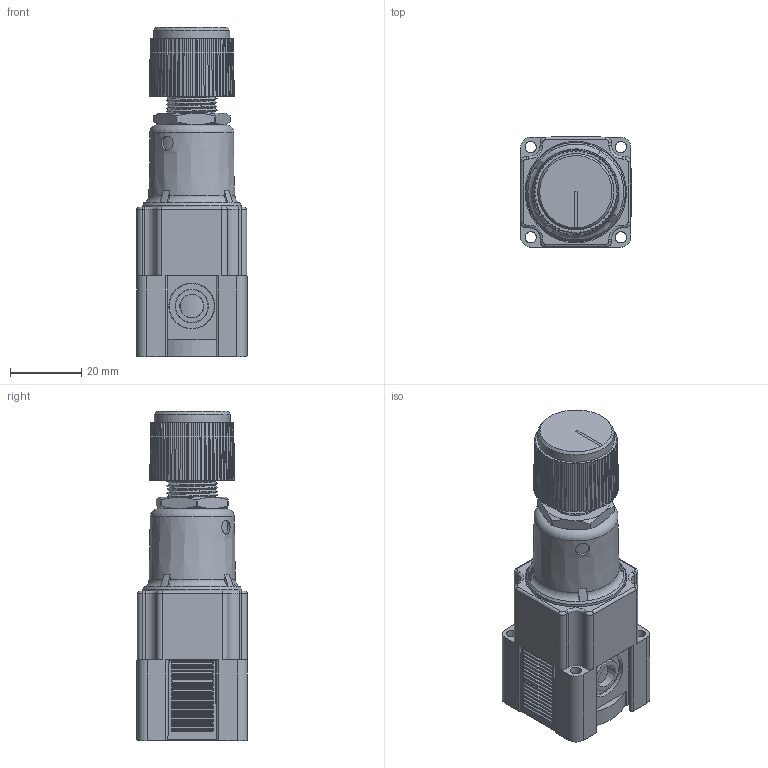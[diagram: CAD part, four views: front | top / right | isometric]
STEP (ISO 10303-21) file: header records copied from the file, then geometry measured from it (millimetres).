
FILE_DESCRIPTION(/* description */ (''),/* implementation_level */ '2;1');
FILE_NAME(/* name */ 'K:\Normteile INVENTOR\Air-Logic\Regulators\NR4000\NR 4___ Template Shrinkwrap.igs.ipt.stp',/* time_stamp */ '2020-05-27T10:51:52+02:00',/* author */ ('Paul'),/* organization */ (''),/* preprocessor_version */ 'ST-DEVELOPER v18',/* originating_system */ 'Autodesk Inventor 2020',/* authorisation */ '');
FILE_SCHEMA (('AUTOMOTIVE_DESIGN { 1 0 10303 214 3 1 1 }'));
Length unit declared in the file: inch
Products named in the file (1): NR 4___ Template Shrinkwrap.igs
Bounding box: 31.06 x 31.06 x 92.65 mm (x, y, z)
Volume: 53716.9 mm3; surface area: 17611.5 mm2
Topology: 1 solids, 1 shells, 856 faces, 2194 edges, 1396 vertices
Faces by surface type: plane 415, cylinder 315, cone 82, bspline 23, torus 21
Full cylindrical faces by diameter (mm): 3.175 x4, 3.988 x1, 4.039 x1, 4.064 x1, 9.169 x1, 12.903 x1, 14.288 x2, 19.406 x1, 21.476 x1, 26.264 x1, 27.94 x1, 27.991 x1, 28.575 x1
Entity records: 34477 total; most frequent: CARTESIAN_POINT 12245, DIRECTION 4693, ORIENTED_EDGE 4388, EDGE_CURVE 2194, AXIS2_PLACEMENT_3D 1820, VERTEX_POINT 1396, LINE 1053, VECTOR 1053
